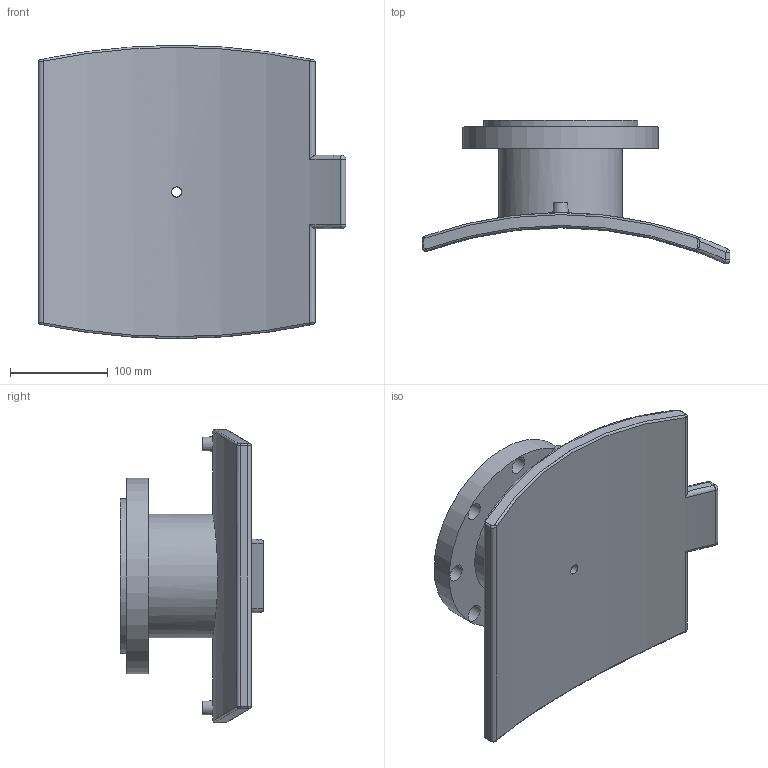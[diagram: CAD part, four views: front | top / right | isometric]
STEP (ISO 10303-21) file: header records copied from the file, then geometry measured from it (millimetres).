
FILE_DESCRIPTION(/* description */ ('PLASSON FLANGED BRANCH SADDLE 450-800X100'),/* implementation_level */ '2;1');
FILE_NAME(/* name */ 'C:\Dropbox\KIMPROJECTS-Inventor 2019\99-16-3568-Processing\ElectroFusion Fittings\x\495904_495903\495904710100T.ipt.stp',/* time_stamp */ '2021-07-21T13:21:47+03:00',/* author */ ('KIM'),/* organization */ (''),/* preprocessor_version */ 'ST-DEVELOPER v17.2',/* originating_system */ 'Autodesk Inventor 2019',/* authorisation */ '');
FILE_SCHEMA (('AUTOMOTIVE_DESIGN { 1 0 10303 214 3 1 1 }'));
Length unit declared in the file: millimetre
Products named in the file (1): 495904710100T
Bounding box: 315 x 147.15 x 300 mm (x, y, z)
Volume: 2175257.2 mm3; surface area: 314776.6 mm2
Topology: 1 solids, 1 shells, 75 faces, 172 edges, 110 vertices
Faces by surface type: cylinder 37, plane 16, bspline 12, sphere 4, torus 4, cone 2
Full cylindrical faces by diameter (mm): 4 x2, 10 x2, 10.4 x1, 16 x1, 18 x8, 100 x1, 126.4 x1, 158 x1, 200 x1
Entity records: 2881 total; most frequent: CARTESIAN_POINT 1148, ORIENTED_EDGE 344, DIRECTION 338, EDGE_CURVE 172, AXIS2_PLACEMENT_3D 144, VERTEX_POINT 110, EDGE_LOOP 104, CIRCLE 80
